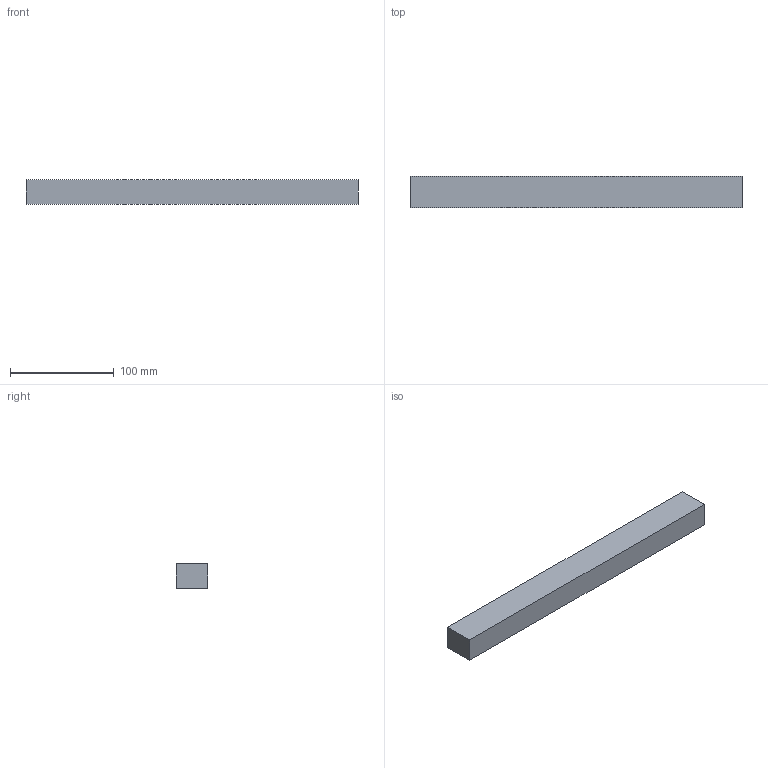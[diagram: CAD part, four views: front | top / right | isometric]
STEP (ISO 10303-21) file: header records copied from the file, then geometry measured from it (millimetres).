
FILE_DESCRIPTION(('Open CASCADE Model'),'2;1');
FILE_NAME('Open CASCADE Shape Model','2026-09-19T23:46:39',('Author'),( 'Open CASCADE'),'Open CASCADE STEP processor 7.9','Open CASCADE 7.9' ,'Unknown');
FILE_SCHEMA(('AUTOMOTIVE_DESIGN { 1 0 10303 214 1 1 1 1 }'));
Length unit declared in the file: millimetre
Products named in the file (1): Open CASCADE STEP translator 7.9 4
Bounding box: 320 x 30 x 24 mm (x, y, z)
Volume: 230400 mm3; surface area: 36000 mm2
Topology: 1 solids, 1 shells, 6 faces, 12 edges, 8 vertices
Faces by surface type: plane 6
Entity records: 322 total; most frequent: CARTESIAN_POINT 51, DIRECTION 50, LINE 36, VECTOR 36, ORIENTED_EDGE 24, PCURVE 24, DEFINITIONAL_REPRESENTATION 24, EDGE_CURVE 12
